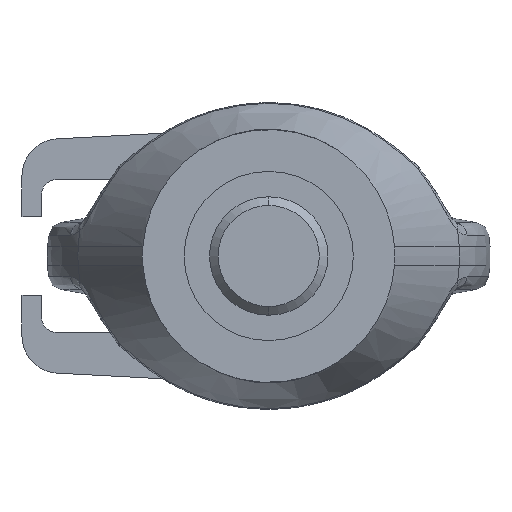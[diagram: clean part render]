
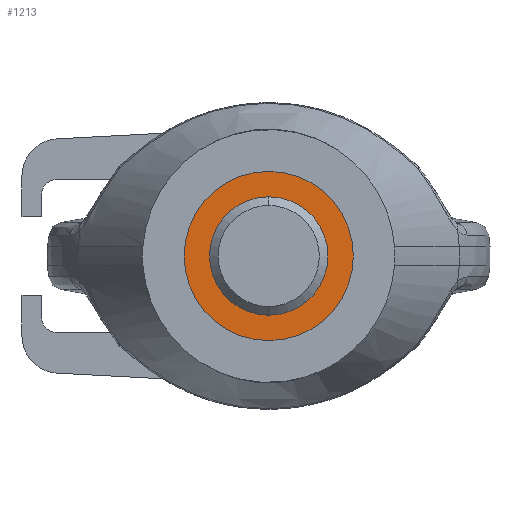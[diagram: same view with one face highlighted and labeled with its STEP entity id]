
A CAD part, front view. The second image highlights one B-rep face of the part: STEP entity #1213.
In plain terms, the highlighted planar face has unit normal (0, -1, 0).
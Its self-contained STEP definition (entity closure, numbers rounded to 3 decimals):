
#1213=ADVANCED_FACE('',(#2431,#2432),#2433,.T.);
#2431=FACE_OUTER_BOUND('',#14400,.T.);
#2432=FACE_BOUND('',#14401,.T.);
#2433=PLANE('',#14402);
#14400=EDGE_LOOP('',(#17452,#17453));
#14401=EDGE_LOOP('',(#17454,#17455));
#14402=AXIS2_PLACEMENT_3D('',#17456,#17457,#17458);
#17452=ORIENTED_EDGE('',*,*,#18857,.T.);
#17453=ORIENTED_EDGE('',*,*,#18902,.T.);
#17454=ORIENTED_EDGE('',*,*,#18860,.F.);
#17455=ORIENTED_EDGE('',*,*,#18903,.F.);
#17456=CARTESIAN_POINT('',(27.855,-90.0,0.0));
#17457=DIRECTION('',(0.0,-1.0,0.0));
#17458=DIRECTION('',(0.0,0.0,-1.0));
#18857=EDGE_CURVE('',#20896,#20900,#20902,.T.);
#18860=EDGE_CURVE('',#20904,#20907,#20908,.T.);
#18902=EDGE_CURVE('',#20900,#20896,#20969,.T.);
#18903=EDGE_CURVE('',#20907,#20904,#20970,.T.);
#20896=VERTEX_POINT('',#34931);
#20900=VERTEX_POINT('',#34936);
#20902=CIRCLE('',#34939,34.3);
#20904=VERTEX_POINT('',#34941);
#20907=VERTEX_POINT('',#34945);
#20908=CIRCLE('',#34946,24.0);
#20969=CIRCLE('',#35030,34.3);
#20970=CIRCLE('',#35031,24.0);
#34931=CARTESIAN_POINT('',(0.0,-90.0,-34.3));
#34936=CARTESIAN_POINT('',(0.,-90.0,34.3));
#34939=AXIS2_PLACEMENT_3D('',#36176,#36177,#36178);
#34941=CARTESIAN_POINT('',(0.0,-90.0,-24.0));
#34945=CARTESIAN_POINT('',(0.,-90.0,24.0));
#34946=AXIS2_PLACEMENT_3D('',#36180,#36181,#36182);
#35030=AXIS2_PLACEMENT_3D('',#36224,#36225,#36226);
#35031=AXIS2_PLACEMENT_3D('',#36227,#36228,#36229);
#36176=CARTESIAN_POINT('',(0.0,-90.0,0.0));
#36177=DIRECTION('',(0.0,-1.0,0.0));
#36178=DIRECTION('',(0.0,0.0,-1.0));
#36180=CARTESIAN_POINT('',(0.0,-90.0,0.0));
#36181=DIRECTION('',(0.0,-1.0,0.0));
#36182=DIRECTION('',(0.0,0.0,-1.0));
#36224=CARTESIAN_POINT('',(0.0,-90.0,0.0));
#36225=DIRECTION('',(0.0,-1.0,0.0));
#36226=DIRECTION('',(0.0,0.0,-1.0));
#36227=CARTESIAN_POINT('',(0.0,-90.0,0.0));
#36228=DIRECTION('',(0.0,-1.0,0.0));
#36229=DIRECTION('',(0.0,0.0,-1.0));
